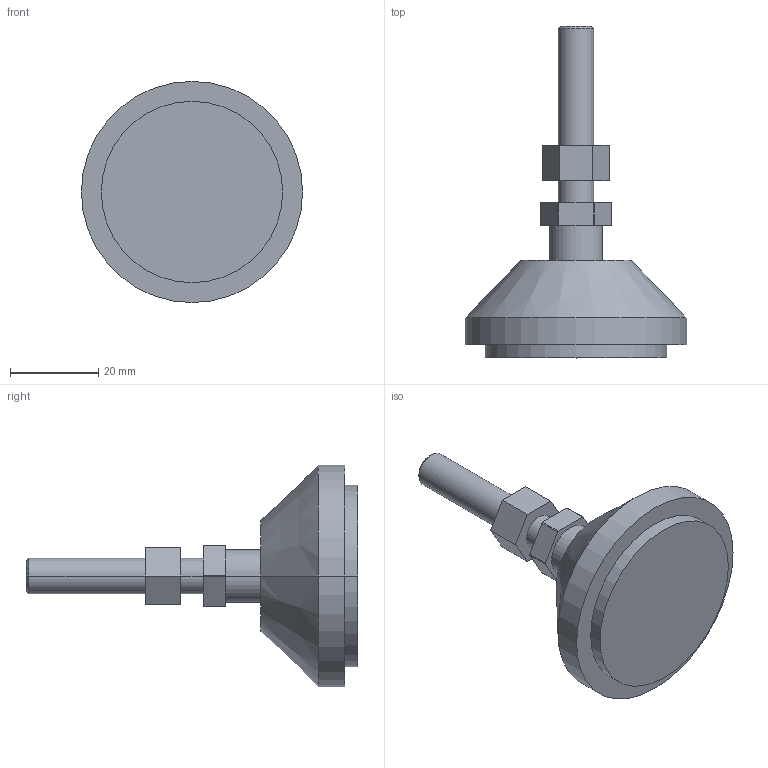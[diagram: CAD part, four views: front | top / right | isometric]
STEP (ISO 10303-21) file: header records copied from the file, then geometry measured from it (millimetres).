
FILE_DESCRIPTION((''),'2;1');
FILE_NAME('SUP05008','2002-12-27T',('Lipro doo'),('Lipro d.o.o.'),'PRO/ENGINEER BY PARAMETRIC TECHNOLOGY CORPORATION, 2001150','PRO/ENGINEER BY PARAMETRIC TECHNOLOGY CORPORATION, 2001150','');
FILE_SCHEMA(('CONFIG_CONTROL_DESIGN'));
Length unit declared in the file: millimetre
Products named in the file (1): SUP05008
Bounding box: 50 x 75 x 50 mm (x, y, z)
Volume: 35159.8 mm3; surface area: 8765.7 mm2
Topology: 1 solids, 2 shells, 42 faces, 98 edges, 64 vertices
Faces by surface type: plane 20, cylinder 18, cone 4
Entity records: 1254 total; most frequent: DIRECTION 224, CARTESIAN_POINT 205, ORIENTED_EDGE 192, EDGE_CURVE 98, AXIS2_PLACEMENT_3D 83, VERTEX_POINT 64, VECTOR 58, LINE 58
